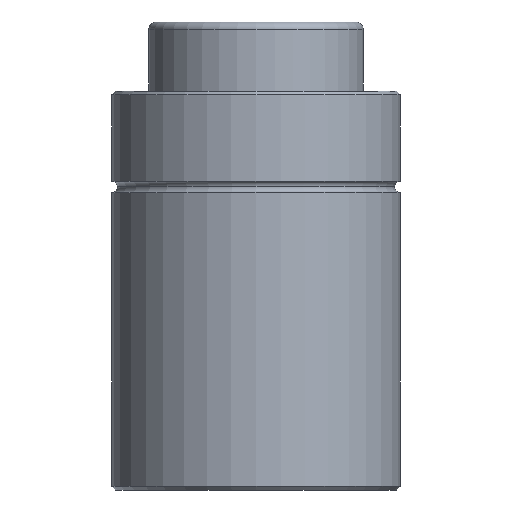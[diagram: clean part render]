
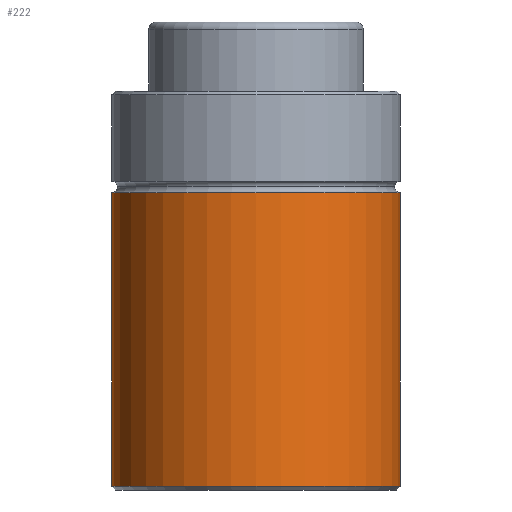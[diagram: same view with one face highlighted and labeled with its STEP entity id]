
A CAD part, front view. The second image highlights one B-rep face of the part: STEP entity #222.
In plain terms, the highlighted cylindrical face has radius 37.6 mm (diameter 75.2 mm), a full revolution.
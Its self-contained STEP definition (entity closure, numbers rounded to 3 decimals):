
#222 = ADVANCED_FACE('',(#223),#250,.T.);
#223 = FACE_BOUND('',#224,.T.);
#224 = EDGE_LOOP('',(#225,#234,#242,#249));
#225 = ORIENTED_EDGE('',*,*,#226,.T.);
#226 = EDGE_CURVE('',#227,#227,#229,.T.);
#227 = VERTEX_POINT('',#228);
#228 = CARTESIAN_POINT('',(37.6,0.,1.));
#229 = CIRCLE('',#230,37.6);
#230 = AXIS2_PLACEMENT_3D('',#231,#232,#233);
#231 = CARTESIAN_POINT('',(0.,0.,1.));
#232 = DIRECTION('',(0.,0.,1.));
#233 = DIRECTION('',(1.,0.,0.));
#234 = ORIENTED_EDGE('',*,*,#235,.T.);
#235 = EDGE_CURVE('',#227,#236,#238,.T.);
#236 = VERTEX_POINT('',#237);
#237 = CARTESIAN_POINT('',(37.6,0.,77.5));
#238 = LINE('',#239,#240);
#239 = CARTESIAN_POINT('',(37.6,0.,0.));
#240 = VECTOR('',#241,1.);
#241 = DIRECTION('',(0.,0.,1.));
#242 = ORIENTED_EDGE('',*,*,#243,.T.);
#243 = EDGE_CURVE('',#236,#236,#244,.T.);
#244 = CIRCLE('',#245,37.6);
#245 = AXIS2_PLACEMENT_3D('',#246,#247,#248);
#246 = CARTESIAN_POINT('',(0.,0.,77.5));
#247 = DIRECTION('',(0.,0.,-1.));
#248 = DIRECTION('',(0.,1.,0.));
#249 = ORIENTED_EDGE('',*,*,#235,.F.);
#250 = CYLINDRICAL_SURFACE('',#251,37.6);
#251 = AXIS2_PLACEMENT_3D('',#252,#253,#254);
#252 = CARTESIAN_POINT('',(0.,0.,0.));
#253 = DIRECTION('',(0.,0.,1.));
#254 = DIRECTION('',(1.,0.,0.));
